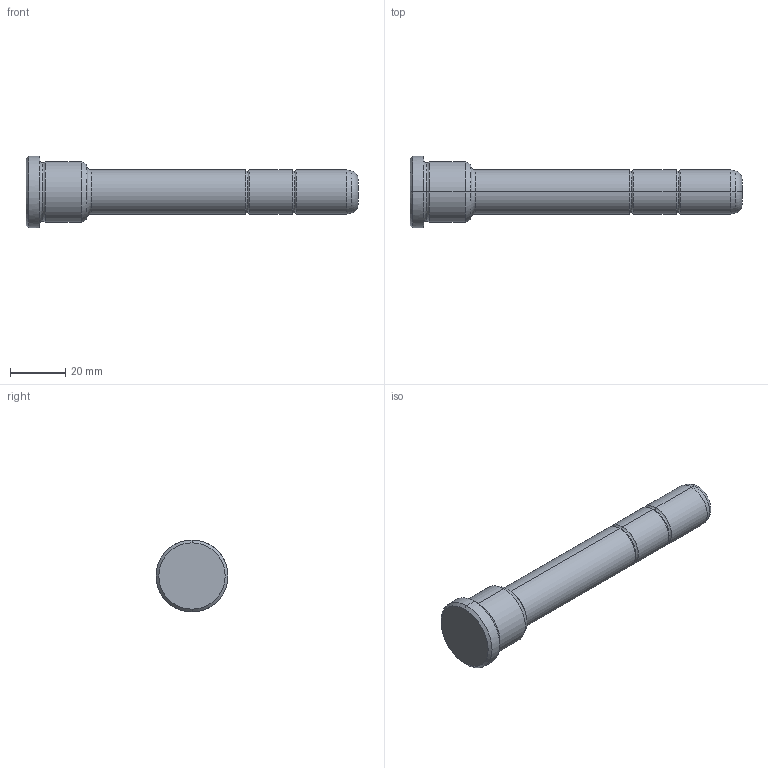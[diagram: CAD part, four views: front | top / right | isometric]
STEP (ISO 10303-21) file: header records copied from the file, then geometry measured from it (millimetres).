
FILE_DESCRIPTION(('CATIA V5 STEP Exchange'),'2;1');
FILE_NAME('C:\Users\Utente\Desktop\IO LAVORO\3D X SITO CF\X SITO\PLASTICA\351\351-16X22X120.stp','2021-08-18T10:55:58+00:00',('none'),('none'),'CATIA Version 5 Release 20 GA (IN-10)','CATIA V5 STEP AP203','none');
FILE_SCHEMA(('CONFIG_CONTROL_DESIGN'));
Length unit declared in the file: millimetre
Products named in the file (1): 351-16X22X120
Bounding box: 120 x 26 x 26 mm (x, y, z)
Volume: 28481.6 mm3; surface area: 7392.6 mm2
Topology: 1 solids, 1 shells, 36 faces, 102 edges, 70 vertices
Faces by surface type: torus 16, cylinder 10, cone 6, plane 4
Entity records: 1292 total; most frequent: CARTESIAN_POINT 321, ORIENTED_EDGE 204, DIRECTION 166, AXIS2_PLACEMENT_3D 115, EDGE_CURVE 102, CIRCLE 78, VERTEX_POINT 70, EDGE_LOOP 38
